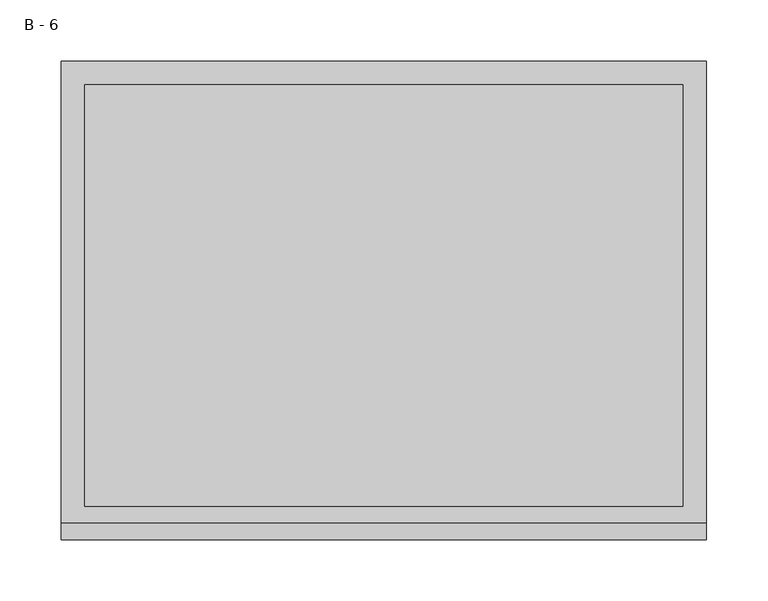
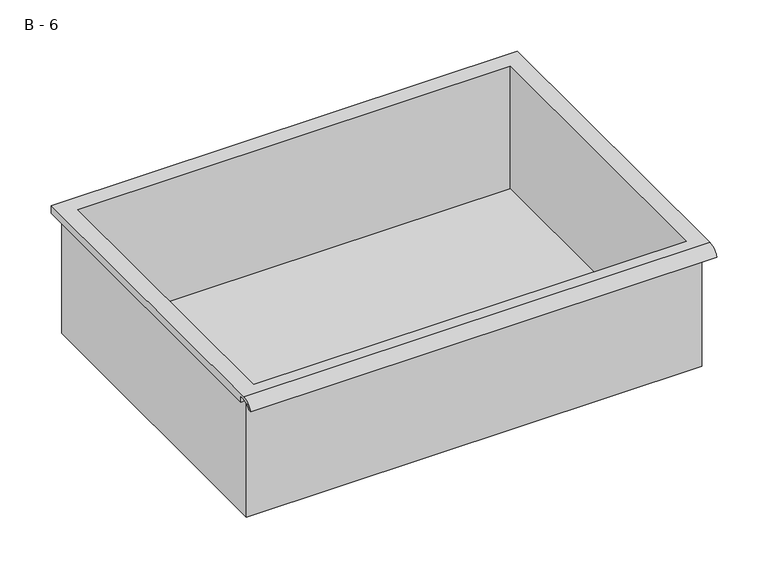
"""IFC4 building model written with IfcOpenShell, lengths in millimetres: furniture geometry, HermanMiller_CoStruc_CO207_Drawer : B - 6."""

import ifcopenshell
import ifcopenshell.guid

model = None  # the IFC model being written
_history = None  # IfcOwnerHistory: only IFC2X3 demands one
_inside = {}  # id of a spatial element -> (the spatial element, [elements in it])
_under = {}  # id of a project, library or spatial element -> (it, [spatial elements below it])
_declared = {}  # id of a project -> (the project, [libraries it declares])
_typed = {}  # id of a type object -> (the type object, [elements of that type])
_made_of = {}  # id of a material, layer set ... -> (it, [elements and type objects made of it])


def new_model(schema):
    """Start an empty IFC model of exactly this schema.

    Asked for "IFC4X3", IfcOpenShell would pick the latest addendum, in which some entities
    have other attributes; the version numbers below select the first issue.
    IFC2X3 requires an IfcOwnerHistory on every rooted entity: one is made here for all.
    """
    global model, _history
    if schema == "IFC4X3":
        model = ifcopenshell.file(schema_version=(4, 3, 0, 0))
    else:
        model = ifcopenshell.file(schema=schema)
    _inside.clear()
    _under.clear()
    _declared.clear()
    _typed.clear()
    _made_of.clear()
    _history = None
    if model.schema == "IFC2X3":
        org = make("IfcOrganization", Name="unknown")
        user = make(
            "IfcPersonAndOrganization",
            ThePerson=make("IfcPerson", FamilyName="unknown"),
            TheOrganization=org,
        )
        app = make(
            "IfcApplication",
            ApplicationDeveloper=org,
            Version="unknown",
            ApplicationFullName="unknown",
            ApplicationIdentifier="unknown",
        )
        _history = make(
            "IfcOwnerHistory",
            OwningUser=user,
            OwningApplication=app,
            ChangeAction="ADDED",
            CreationDate=0,
        )
    return model


def make(cls, **values):
    """One entity of the class cls with the attributes given. An attribute that is None is left unset."""
    return model.create_entity(
        cls, **{name: value for name, value in values.items() if value is not None}
    )


def rooted(cls, **values):
    """An entity with a GlobalId (a new one), such as an element, a storey or a relation."""
    return make(cls, GlobalId=ifcopenshell.guid.new(), OwnerHistory=_history, **values)


def si_unit(unit_type, name, prefix=None):
    """IfcSIUnit, for example si_unit("LENGTHUNIT", "METRE", prefix="MILLI")."""
    return make("IfcSIUnit", UnitType=unit_type, Prefix=prefix, Name=name)


def assignment(units):
    """IfcUnitAssignment: the units of a project."""
    return None if units is None else make("IfcUnitAssignment", Units=units)


def point(xyz):
    """IfcCartesianPoint."""
    return None if xyz is None else make("IfcCartesianPoint", Coordinates=xyz)


def direction(xyz):
    """IfcDirection."""
    return None if xyz is None else make("IfcDirection", DirectionRatios=xyz)


def frame(location, z_axis=None, x_axis=None):
    """IfcAxis2Placement3D, a coordinate frame: its origin and axes. An axis left out is left unset."""
    return make(
        "IfcAxis2Placement3D",
        Location=point(location),
        Axis=direction(z_axis),
        RefDirection=direction(x_axis),
    )


def origin():
    """The frame at (0, 0, 0) with its axes left unset."""
    return frame((0.0, 0.0, 0.0))


def place(relative_to, where):
    """IfcLocalPlacement: puts the frame where relative to a parent placement (None: the world)."""
    return make(
        "IfcLocalPlacement", PlacementRelTo=relative_to, RelativePlacement=where
    )


def context(
    kind, dimensions, precision=None, world=None, true_north=None, identifier=None
):
    """IfcGeometricRepresentationContext, for example the 3D "Model" context."""
    return make(
        "IfcGeometricRepresentationContext",
        ContextIdentifier=identifier,
        ContextType=kind,
        CoordinateSpaceDimension=dimensions,
        Precision=precision,
        WorldCoordinateSystem=world,
        TrueNorth=true_north,
    )


def project(units=None, contexts=None):
    """IfcProject with its units and contexts."""
    return rooted(
        "IfcProject",
        Name="project",
        RepresentationContexts=contexts,
        UnitsInContext=assignment(units),
    )


def spatial(cls, under=None, at=None, **own):
    """A site, building, storey or space (cls), placed at a placement, below another one or the project."""
    s = rooted(cls, ObjectPlacement=at, **own)
    if under is not None:
        _under.setdefault(under.id(), (under, []))[1].append(s)
    return s


def polyline(points):
    """IfcPolyline through the points."""
    return make("IfcPolyline", Points=[point(p) for p in points])


def circle_curve(where, radius):
    """IfcCircle in the frame where."""
    return make("IfcCircle", Position=where, Radius=radius)


def shape(context_of_items, identifier, shape_type, items):
    """IfcShapeRepresentation: the items that make up one representation, for example the "Body"."""
    return make(
        "IfcShapeRepresentation",
        ContextOfItems=context_of_items,
        RepresentationIdentifier=identifier,
        RepresentationType=shape_type,
        Items=items,
    )


def source(mapping_origin, context_of_items, identifier, shape_type, items):
    """IfcRepresentationMap: a shape defined once, which mapped items show again and again."""
    return make(
        "IfcRepresentationMap",
        MappingOrigin=mapping_origin,
        MappedRepresentation=shape(context_of_items, identifier, shape_type, items),
    )


def transform(
    local_origin,
    x_axis=None,
    y_axis=None,
    z_axis=None,
    scale=None,
    scale2=None,
    scale3=None,
    uniform=True,
):
    """IfcCartesianTransformationOperator3D, or its non-uniform kind. x_axis, y_axis, z_axis: its Axis1, 2, 3."""
    if uniform:
        return make(
            "IfcCartesianTransformationOperator3D",
            Axis1=direction(x_axis),
            Axis2=direction(y_axis),
            LocalOrigin=point(local_origin),
            Scale=scale,
            Axis3=direction(z_axis),
        )
    return make(
        "IfcCartesianTransformationOperator3DnonUniform",
        Axis1=direction(x_axis),
        Axis2=direction(y_axis),
        LocalOrigin=point(local_origin),
        Scale=scale,
        Axis3=direction(z_axis),
        Scale2=scale2,
        Scale3=scale3,
    )


def mapped(mapping_source, mapping_target):
    """IfcMappedItem: shows the shape of a source again, moved by a transform."""
    return make(
        "IfcMappedItem", MappingSource=mapping_source, MappingTarget=mapping_target
    )


def made_of(thing, what):
    """Note that an element or type object is made of a material, layer set ...; save() writes the relation."""
    if what is not None:
        _made_of.setdefault(what.id(), (what, []))[1].append(thing)
    return thing


def element(
    cls,
    number,
    at=None,
    inside=None,
    cuts=None,
    type_object=None,
    material=None,
    context=None,
    identifier="Body",
    shape_type=None,
    held_by="IfcProductDefinitionShape",
    body=None,
    shapes=None,
    **own,
):
    """One element of the class cls, such as IfcWall. Its Tag is "e" and its number.

    at: its placement. inside: the storey or other place that contains it. cuts: it is an
    opening in that element (IfcRelVoidsElement). A single representation is given by context,
    identifier, shape_type and body (its items); several are given by shapes. held_by: the class
    of the entity that holds the representations. save() writes the other relations.
    """
    e = rooted(cls, Tag="e%d" % number, ObjectPlacement=at, **own)
    if body is not None:
        shapes = [shape(context, identifier, shape_type, body)]
    if shapes is not None:
        e.Representation = make(held_by, Representations=shapes)
    if inside is not None:
        _inside.setdefault(inside.id(), (inside, []))[1].append(e)
    if cuts is not None:
        rooted(
            "IfcRelVoidsElement", RelatingBuildingElement=cuts, RelatedOpeningElement=e
        )
    if type_object is not None:
        _typed.setdefault(type_object.id(), (type_object, []))[1].append(e)
    return made_of(e, material)


def aggregate(whole, parts):
    """IfcRelAggregates: a whole, such as a stair, and the parts it consists of."""
    return rooted("IfcRelAggregates", RelatingObject=whole, RelatedObjects=parts)


def save(model, path):
    """Write the relations noted so far, then the file.

    IfcRelAggregates (storeys below a building ...), IfcRelContainedInSpatialStructure (elements
    in a storey), IfcRelDefinesByType, IfcRelAssociatesMaterial and IfcRelDeclares: one each for
    every whole, place, type object, material and project.
    """
    for whole, parts in _under.values():
        aggregate(whole, parts)
    for where, things in _inside.values():
        rooted(
            "IfcRelContainedInSpatialStructure",
            RelatedElements=things,
            RelatingStructure=where,
        )
    for kind, things in _typed.values():
        rooted("IfcRelDefinesByType", RelatedObjects=things, RelatingType=kind)
    for what, things in _made_of.values():
        rooted("IfcRelAssociatesMaterial", RelatedObjects=things, RelatingMaterial=what)
    for by, libraries in _declared.values():
        rooted("IfcRelDeclares", RelatingContext=by, RelatedDefinitions=libraries)
    model.write(path)


def plane_surface(at):
    """IfcPlane: the flat surface through the origin of the frame at, square to its z axis."""
    return make("IfcPlane", Position=at)


def cylinder_surface(at, radius):
    """IfcCylindricalSurface: all points at the distance radius from the z axis of the frame at."""
    return make("IfcCylindricalSurface", Position=at, Radius=radius)


def revolved_surface(curve, axis_point, axis_direction):
    """IfcSurfaceOfRevolution: the curve turned about the line through axis_point along axis_direction."""
    return make(
        "IfcSurfaceOfRevolution",
        SweptCurve=make("IfcArbitraryOpenProfileDef", ProfileType="CURVE", Curve=curve),
        AxisPosition=make("IfcAxis1Placement", Location=point(axis_point), Axis=direction(axis_direction)),
    )


def advanced_brep(points, edges, surfaces, faces):
    """IfcAdvancedBrep: a solid bounded by faces that lie on surfaces and meet in shared edges.

    An edge is (start, end): straight between two places in points (the first is 0);
    or (start, end, curve); or (start, end, curve, False) where it runs against its curve.
    A face is (place in surfaces, loops), or (place, loops, False) where it looks against
    its surface's normal. A loop lists edges by number (the first is 1), with a minus sign
    where the edge is run from its end to its start. The first loop is the outer one.
    """
    corners = [point(p) for p in points]
    vertices = [make("IfcVertexPoint", VertexGeometry=c) for c in corners]
    made = []
    for start, end, *more in edges:
        made.append(
            make(
                "IfcEdgeCurve",
                EdgeStart=vertices[start],
                EdgeEnd=vertices[end],
                EdgeGeometry=more[0] if more else make("IfcPolyline", Points=[corners[start], corners[end]]),
                SameSense=more[1] if len(more) > 1 else True,
            )
        )
    hull = []
    for where, loops, *sense in faces:
        bounds = []
        for j, loop in enumerate(loops):
            ring = [make("IfcOrientedEdge", EdgeElement=made[abs(k) - 1], Orientation=k > 0) for k in loop]
            bounds.append(
                make(
                    "IfcFaceOuterBound" if j == 0 else "IfcFaceBound",
                    Bound=make("IfcEdgeLoop", EdgeList=ring),
                    Orientation=True,
                )
            )
        hull.append(make("IfcAdvancedFace", Bounds=bounds, FaceSurface=surfaces[where], SameSense=sense[0] if sense else True))
    return make("IfcAdvancedBrep", Outer=make("IfcClosedShell", CfsFaces=hull))


def b_6_92a8d064(model_context):
    return source(origin(), model_context, "Body", "AdvancedBrep", [
        advanced_brep(
        [(-257.1076517, -176.2125, 433.4002), (257.2423483, -176.2125, 433.4002), (257.2423483, -176.2125, 573.1002), (263.5923483, -176.2125, 573.1002), (263.5923483, -176.2125, 579.4073341), (-263.4576517, -176.2125, 579.4073341), (-263.4576517, -176.2125, 573.1002), (-257.1076517, -176.2125, 573.1002), (257.2423483, 185.7375, 433.4002), (-257.1076517, 185.7375, 433.4002), (-257.1076517, 185.7375, 573.1002), (257.2423483, 185.7375, 573.1002), (263.5923483, -181.6070544, 582.6252), (263.5923483, 195.2625, 582.6252), (-263.4576517, 195.2625, 582.6252), (-263.4576517, -181.6070544, 582.6252), (244.5423483, -168.275, 582.6252), (-244.4076517, -168.275, 582.6252), (-244.4076517, 176.2125, 582.6252), (244.5423483, 176.2125, 582.6252), (263.5923483, -195.2625, 573.1002), (263.5923483, -191.8280601, 573.1002), (263.5923483, -180.4714815, 579.4073341), (263.5923483, 195.2625, 573.1002), (-263.4576517, 195.2625, 573.1002), (-263.4576517, -180.4714815, 579.4073341), (-263.4576517, -191.8280601, 573.1002), (-263.4576517, -195.2625, 573.1002), (-244.4076517, -168.275, 436.4263719), (244.5423483, -168.275, 436.4263719), (244.5423483, 176.2125, 436.4263719), (-244.4076517, 176.2125, 436.4263719)],
        [
            (0, 1),
            (1, 2),
            (2, 3),
            (3, 4),
            (4, 5),
            (5, 6),
            (6, 7),
            (7, 0),
            (8, 9),
            (9, 10),
            (10, 11),
            (11, 8),
            (0, 9),
            (8, 1),
            (11, 2),
            (12, 13),
            (13, 14),
            (14, 15),
            (15, 12),
            (16, 17),
            (17, 18),
            (18, 19),
            (19, 16),
            (7, 10),
            (12, 20, circle_curve(frame((263.5923483, -181.6070544, 568.0741859), z_axis=(1.0, 0.0, 0.0), x_axis=(0.0, 1.0, 0.0)), 14.5510141)),
            (20, 21),
            (21, 22, circle_curve(frame((263.5923483, -181.6070544, 568.0741859), z_axis=(-1.0, 0.0, 0.0), x_axis=(0.0, 1.0, 0.0)), 11.3898979)),
            (22, 4),
            (3, 23),
            (23, 13),
            (14, 24),
            (24, 6),
            (5, 25),
            (25, 26, circle_curve(frame((-263.4576517, -181.6070544, 568.0741859), z_axis=(1.0, 0.0, 0.0), x_axis=(0.0, 1.0, 0.0)), 11.3898979)),
            (26, 27),
            (27, 15, circle_curve(frame((-263.4576517, -181.6070544, 568.0741859), z_axis=(-1.0, 0.0, 0.0), x_axis=(0.0, 1.0, 0.0)), 14.5510141)),
            (27, 20),
            (26, 21),
            (25, 22),
            (24, 23),
            (28, 29),
            (29, 30),
            (30, 31),
            (31, 28),
            (28, 17),
            (16, 29),
            (19, 30),
            (18, 31),
        ],
        [
            plane_surface(frame((257.2423483, -176.2125, 433.4002), z_axis=(0.0, -1.0, 0.0), x_axis=(1.0, 0.0, 0.0))),
            plane_surface(frame((257.2423483, 185.7375, 433.4002), z_axis=(0.0, 1.0, 0.0), x_axis=(-1.0, 0.0, 0.0))),
            plane_surface(frame((-257.1076517, -176.2125, 433.4002), z_axis=(0.0, 0.0, -1.0), x_axis=(0.0, 1.0, 0.0))),
            plane_surface(frame((257.2423483, -176.2125, 433.4002), z_axis=(1.0, 0.0, 0.0), x_axis=(0.0, 1.0, 0.0))),
            plane_surface(frame((257.2423483, -176.2125, 582.6252), z_axis=(0.0, 0.0, 1.0), x_axis=(0.0, 1.0, 0.0))),
            plane_surface(frame((-257.1076517, -176.2125, 582.6252), z_axis=(-1.0, 0.0, 0.0), x_axis=(0.0, 1.0, 0.0))),
            plane_surface(frame((263.5923483, 195.2625, 582.6252), z_axis=(1.0, 0.0, 0.0), x_axis=(0.0, -1.0, 0.0))),
            plane_surface(frame((-263.4576517, 195.2625, 582.6252), z_axis=(-1.0, 0.0, 0.0), x_axis=(0.0, 1.0, 0.0))),
            cylinder_surface(frame((-263.4576517, -181.6070544, 568.0741859), z_axis=(1.0, 0.0, 0.0), x_axis=(0.0, 1.0, 0.0)), 14.5510141),
            plane_surface(frame((263.5923483, -195.2625, 573.1002), z_axis=(0.0, -7.212409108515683e-12, -1.0), x_axis=(-1.0, 0.0, 0.0))),
            revolved_surface(polyline([(-263.4576517, -170.21715650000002, 568.0741859), (263.59234829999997, -170.21715650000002, 568.0741859)]), (-263.4576517, -181.6070544, 568.0741859), (-1.0, 0.0, 0.0)),
            plane_surface(frame((263.5923483, -180.4714815, 579.4073341), z_axis=(0.0, -1.7877301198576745e-11, -1.0), x_axis=(-1.0, 0.0, 0.0))),
            plane_surface(frame((263.5923483, -176.2125, 573.1002), z_axis=(0.0, 0.0, -1.0), x_axis=(-1.0, 0.0, 0.0))),
            plane_surface(frame((263.5923483, 195.2625, 573.1002), z_axis=(0.0, 1.0, 0.0), x_axis=(-1.0, 0.0, 0.0))),
            plane_surface(frame((244.5423483, -168.275, 436.4263719), z_axis=(0.0, 0.0, 1.0), x_axis=(-1.0, 0.0, 0.0))),
            plane_surface(frame((-244.4076517, -168.275, 582.6252), z_axis=(0.0, 1.0, 0.0), x_axis=(0.0, 0.0, -1.0))),
            plane_surface(frame((244.5423483, -168.275, 582.6252), z_axis=(-1.0, 0.0, 0.0), x_axis=(0.0, 0.0, -1.0))),
            plane_surface(frame((244.5423483, 176.2125, 582.6252), z_axis=(0.0, -1.0, 0.0), x_axis=(0.0, 0.0, -1.0))),
            plane_surface(frame((-244.4076517, 176.2125, 582.6252), z_axis=(1.0, 0.0, 0.0), x_axis=(0.0, 0.0, -1.0))),
        ],
        [
            (0, [[1, 2, 3, 4, 5, 6, 7, 8]]),
            (1, [[9, 10, 11, 12]]),
            (2, [[-1, 13, -9, 14]]),
            (3, [[-14, -12, 15, -2]]),
            (4, [[16, 17, 18, 19], [20, 21, 22, 23]]),
            (5, [[-13, -8, 24, -10]]),
            (6, [[-16, 25, 26, 27, 28, -4, 29, 30]]),
            (7, [[31, 32, -6, 33, 34, 35, 36, -18]]),
            (8, [[-25, -19, -36, 37]]),
            (9, [[-26, -37, -35, 38]]),
            (10, [[-27, -38, -34, 39]]),
            (11, [[-28, -39, -33, -5]]),
            (12, [[-29, -3, -15, -11, -24, -7, -32, 40]]),
            (13, [[-30, -40, -31, -17]]),
            (14, [[41, 42, 43, 44]]),
            (15, [[-41, 45, -20, 46]]),
            (16, [[-42, -46, -23, 47]]),
            (17, [[-43, -47, -22, 48]]),
            (18, [[-44, -48, -21, -45]]),
        ],
    ),
    ])


if __name__ == "__main__":
    model = new_model("IFC4")
    model_context = context("Model", 3, world=origin())
    ifc_project = project(units=[si_unit("LENGTHUNIT", "METRE", prefix="MILLI")], contexts=[model_context])
    site = spatial("IfcSite", under=ifc_project)
    building = spatial("IfcBuilding", under=site)
    placement = place(None, origin())
    b_6_shape = b_6_92a8d064(model_context)
    element("IfcFurniture", 1, ObjectType="HermanMiller_CoStruc_CO207_Drawer : B - 6", at=placement, inside=building, context=model_context, shape_type="MappedRepresentation", body=[
        mapped(b_6_shape, transform((0.0, 0.0, 0.0), x_axis=(1.0, 0.0, 0.0), y_axis=(0.0, 1.0, 0.0), z_axis=(0.0, 0.0, 1.0))),
    ])
    save(model, "model.ifc")
